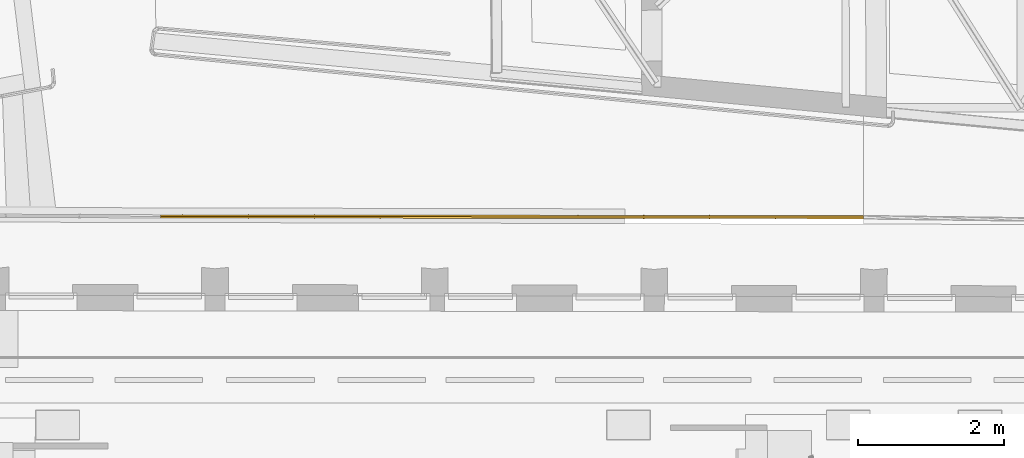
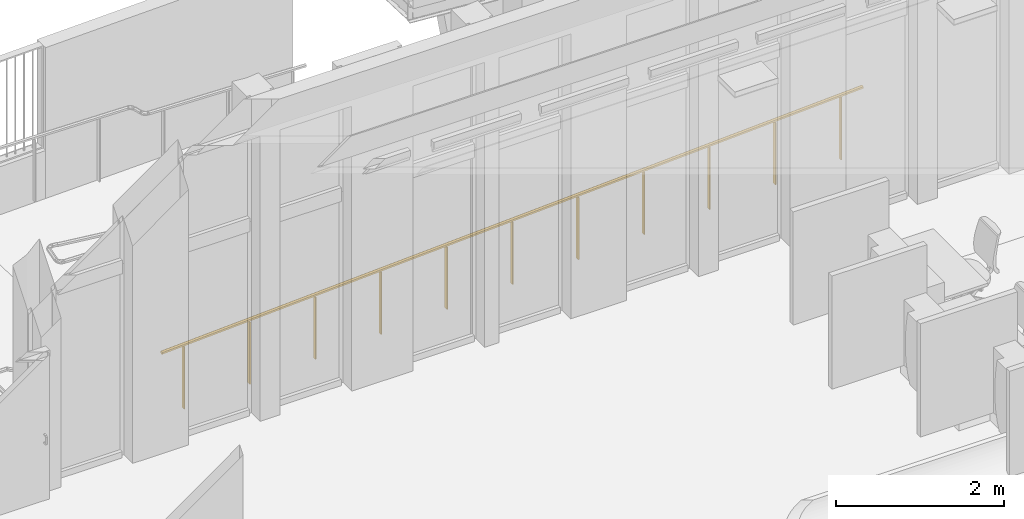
# One storey, part 63 of 128: 1 railing.
"""IFC2X3 building model written with IfcOpenShell, lengths in metres."""

from ifc_helpers import new_model, entity, si_unit, converted_unit, derived_unit, direction, frame, origin, place, context, subcontext, project, spatial, faceted_brep, material, material_list, type_object, element, save


model = new_model("IFC2X3")

# Units and contexts
model_context = context("Model", 3, precision=1e-05, world=origin(), true_north=direction((6.123031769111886e-17, 1.0)))
body_context = subcontext(model_context, "Body", "Model", "MODEL_VIEW")
ifc_project = project(units=[si_unit("LENGTHUNIT", "METRE"), si_unit("AREAUNIT", "SQUARE_METRE"), converted_unit("PLANEANGLEUNIT", "DEGREE", entity("IfcPlaneAngleMeasure", 0.017453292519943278), si_unit("PLANEANGLEUNIT", "RADIAN"), dimensions=[0, 0, 0, 0, 0, 0, 0]), derived_unit("THERMALTRANSMITTANCEUNIT", [(si_unit("MASSUNIT", "GRAM", prefix="KILO"), 1), (si_unit("THERMODYNAMICTEMPERATUREUNIT", "KELVIN"), -1), (si_unit("TIMEUNIT", "SECOND"), -3)])], contexts=[model_context])

# Site, building, storey
site_placement = place(None, origin())
site = spatial("IfcSite", under=ifc_project, at=site_placement, Name="Default", CompositionType="ELEMENT")
building_placement = place(site_placement, origin())
building = spatial("IfcBuilding", under=site, at=building_placement, CompositionType="ELEMENT")
storey_placement = place(building_placement, origin())
storey = spatial("IfcBuildingStorey", under=building, at=storey_placement, Name="00_RDC CAF", CompositionType="ELEMENT", Elevation=2.4982504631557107e-13)

# Railing
ifc_material_1 = material(Name="STR - Acier")
ifc_material_2 = material(Name="ARC - Metal")
ifc_material_list = material_list([ifc_material_1, ifc_material_2])
railing_type = type_object("IfcRailingType", Name="Garde-corps:GC_1_lisse_D50_950mm", PredefinedType="NOTDEFINED")
railing_placement = place(storey_placement, frame((12.004996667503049, 145.20203908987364, -0.48433162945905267)))
element("IfcRailing", 1, at=railing_placement, inside=storey, type_object=railing_type, material=ifc_material_list, Name="Garde-corps:GC_1_lisse_D50_950mm", ObjectType="Garde-corps:GC_1_lisse_D50_950mm", PredefinedType="NOTDEFINED", context=body_context, shape_type="Brep", body=[
    faceted_brep([(9.30844314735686, 0.051958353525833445, 1.3685955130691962), (9.293443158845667, 0.051976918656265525, 1.3685955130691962), (9.293381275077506, 0.001976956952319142, 1.3685955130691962), (9.308381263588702, 0.0019583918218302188, 1.3685955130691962), (9.30844314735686, 0.051958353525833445, 0.4686632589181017), (9.308381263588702, 0.0019583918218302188, 0.4686632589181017), (9.293381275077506, 0.001976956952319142, 0.4686632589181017), (9.293443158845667, 0.051976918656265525, 0.4686632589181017)], [[[0, 1, 2, 3]], [[4, 5, 6, 7]], [[1, 0, 4, 7]], [[2, 1, 7, 6]], [[3, 2, 6, 5]], [[0, 3, 5, 4]]]),
    faceted_brep([(8.40844383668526, 0.05307226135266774, 1.321729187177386), (8.393443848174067, 0.05309082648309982, 1.321729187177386), (8.393381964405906, 0.003090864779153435, 1.321729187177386), (8.408381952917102, 0.0030722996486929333, 1.321729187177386), (8.40844383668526, 0.05307226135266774, 0.4217969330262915), (8.408381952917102, 0.0030722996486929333, 0.4217969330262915), (8.393381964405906, 0.003090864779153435, 0.4217969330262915), (8.393443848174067, 0.05309082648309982, 0.4217969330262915)], [[[0, 1, 2, 3]], [[4, 5, 6, 7]], [[1, 0, 4, 7]], [[2, 1, 7, 6]], [[3, 2, 6, 5]], [[0, 3, 5, 4]]]),
    faceted_brep([(7.50844452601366, 0.05418616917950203, 1.2748628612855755), (7.493444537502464, 0.05420473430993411, 1.2748628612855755), (7.49338265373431, 0.004204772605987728, 1.2748628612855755), (7.508382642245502, 0.004186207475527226, 1.2748628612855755), (7.50844452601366, 0.05418616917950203, 0.37493060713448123), (7.508382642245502, 0.004186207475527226, 0.37493060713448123), (7.49338265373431, 0.004204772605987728, 0.37493060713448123), (7.493444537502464, 0.05420473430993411, 0.37493060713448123)], [[[0, 1, 2, 3]], [[4, 5, 6, 7]], [[1, 0, 4, 7]], [[2, 1, 7, 6]], [[3, 2, 6, 5]], [[0, 3, 5, 4]]]),
    faceted_brep([(6.608445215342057, 0.05530007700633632, 1.2279965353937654), (6.593445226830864, 0.055318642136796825, 1.2279965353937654), (6.5933833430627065, 0.0053186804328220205, 1.2279965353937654), (6.608383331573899, 0.005300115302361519, 1.2279965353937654), (6.608445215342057, 0.05530007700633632, 0.32806428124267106), (6.608383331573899, 0.005300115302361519, 0.32806428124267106), (6.5933833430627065, 0.0053186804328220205, 0.32806428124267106), (6.593445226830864, 0.055318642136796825, 0.32806428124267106)], [[[0, 1, 2, 3]], [[4, 5, 6, 7]], [[1, 0, 4, 7]], [[2, 1, 7, 6]], [[3, 2, 6, 5]], [[0, 3, 5, 4]]]),
    faceted_brep([(5.708445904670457, 0.056413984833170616, 1.1811302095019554), (5.6934459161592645, 0.056432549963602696, 1.1811302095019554), (5.693384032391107, 0.006432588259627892, 1.1811302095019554), (5.708384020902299, 0.00641402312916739, 1.1811302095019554), (5.708445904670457, 0.056413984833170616, 0.28119795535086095), (5.708384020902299, 0.00641402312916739, 0.28119795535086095), (5.693384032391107, 0.006432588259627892, 0.28119795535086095), (5.6934459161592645, 0.056432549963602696, 0.28119795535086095)], [[[0, 1, 2, 3]], [[4, 5, 6, 7]], [[1, 0, 4, 7]], [[2, 1, 7, 6]], [[3, 2, 6, 5]], [[0, 3, 5, 4]]]),
    faceted_brep([(4.808446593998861, 0.05752789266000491, 1.1342638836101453), (4.793446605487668, 0.05754645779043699, 1.1342638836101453), (4.7933847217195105, 0.007546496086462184, 1.1342638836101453), (4.808384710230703, 0.007527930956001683, 1.1342638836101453), (4.808446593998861, 0.05752789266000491, 0.23433162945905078), (4.808384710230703, 0.007527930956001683, 0.23433162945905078), (4.7933847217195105, 0.007546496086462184, 0.23433162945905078), (4.793446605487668, 0.05754645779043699, 0.23433162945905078)], [[[0, 1, 2, 3]], [[4, 5, 6, 7]], [[1, 0, 4, 7]], [[2, 1, 7, 6]], [[3, 2, 6, 5]], [[0, 3, 5, 4]]]),
    faceted_brep([(3.9084472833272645, 0.0586418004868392, 1.087397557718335), (3.8934472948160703, 0.05866036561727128, 1.087397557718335), (3.8933854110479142, 0.008660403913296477, 1.087397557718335), (3.908385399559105, 0.008641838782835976, 1.087397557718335), (3.9084472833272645, 0.0586418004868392, 0.18746530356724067), (3.908385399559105, 0.008641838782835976, 0.18746530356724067), (3.8933854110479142, 0.008660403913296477, 0.18746530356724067), (3.8934472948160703, 0.05866036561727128, 0.18746530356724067)], [[[0, 1, 2, 3]], [[4, 5, 6, 7]], [[1, 0, 4, 7]], [[2, 1, 7, 6]], [[3, 2, 6, 5]], [[0, 3, 5, 4]]]),
    faceted_brep([(3.008447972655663, 0.059755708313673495, 1.0405312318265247), (2.993447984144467, 0.059774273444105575, 1.0405312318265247), (2.993386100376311, 0.00977431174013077, 1.0405312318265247), (3.0083860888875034, 0.009755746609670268, 1.0405312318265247), (3.008447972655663, 0.059755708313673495, 0.1405989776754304), (3.0083860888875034, 0.009755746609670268, 0.1405989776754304), (2.993386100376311, 0.00977431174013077, 0.1405989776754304), (2.993447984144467, 0.059774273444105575, 0.1405989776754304)], [[[0, 1, 2, 3]], [[4, 5, 6, 7]], [[1, 0, 4, 7]], [[2, 1, 7, 6]], [[3, 2, 6, 5]], [[0, 3, 5, 4]]]),
    faceted_brep([(2.108448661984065, 0.06086961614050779, 0.9936649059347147), (2.093448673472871, 0.06088818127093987, 0.9936649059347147), (2.0933867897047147, 0.010888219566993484, 0.9936649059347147), (2.108386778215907, 0.010869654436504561, 0.9936649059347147), (2.108448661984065, 0.06086961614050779, 0.09373265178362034), (2.108386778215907, 0.010869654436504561, 0.09373265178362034), (2.0933867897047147, 0.010888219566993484, 0.09373265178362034), (2.093448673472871, 0.06088818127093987, 0.09373265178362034)], [[[0, 1, 2, 3]], [[4, 5, 6, 7]], [[1, 0, 4, 7]], [[2, 1, 7, 6]], [[3, 2, 6, 5]], [[0, 3, 5, 4]]]),
    faceted_brep([(1.2084493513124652, 0.06198352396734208, 0.9467985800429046), (1.193449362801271, 0.06200208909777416, 0.9467985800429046), (1.193387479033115, 0.012002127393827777, 0.9467985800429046), (1.2083874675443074, 0.011983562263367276, 0.9467985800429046), (1.2084493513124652, 0.06198352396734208, 0.04686632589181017), (1.2083874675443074, 0.011983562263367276, 0.04686632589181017), (1.193387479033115, 0.012002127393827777, 0.04686632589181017), (1.193449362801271, 0.06200208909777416, 0.04686632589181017)], [[[0, 1, 2, 3]], [[4, 5, 6, 7]], [[1, 0, 4, 7]], [[2, 1, 7, 6]], [[3, 2, 6, 5]], [[0, 3, 5, 4]]]),
    faceted_brep([(0.30845004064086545, 0.06309743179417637, 0.8999322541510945), (0.29345005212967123, 0.06311599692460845, 0.8999322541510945), (0.29338816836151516, 0.01311603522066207, 0.8999322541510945), (0.3083881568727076, 0.013097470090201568, 0.8999322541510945), (0.30845004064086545, 0.06309743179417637, 0.0), (0.3083881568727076, 0.013097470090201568, 0.0), (0.29338816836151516, 0.01311603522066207, 0.0), (0.29345005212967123, 0.06311599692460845, 0.0)], [[[0, 1, 2, 3]], [[4, 5, 6, 7]], [[1, 0, 4, 7]], [[2, 1, 7, 6]], [[3, 2, 6, 5]], [[0, 3, 5, 4]]]),
    faceted_brep([(5.773834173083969e-05, 0.060129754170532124, 0.8967808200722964), (5.103922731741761e-05, 0.054717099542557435, 0.893651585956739), (4.434011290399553e-05, 0.049304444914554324, 0.8905223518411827), (3.666017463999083e-05, 0.043099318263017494, 0.886934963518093), (3.094188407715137e-05, 0.038479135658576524, 0.8842638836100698), (2.5223593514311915e-05, 0.033858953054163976, 0.8869349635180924), (1.9505302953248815e-05, 0.029238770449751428, 0.889606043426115), (1.1825364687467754e-05, 0.023033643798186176, 0.8931934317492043), (4.14542642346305e-06, 0.016828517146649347, 0.8967808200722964), (4.14542642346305e-06, 0.016828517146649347, 0.903039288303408), (4.14542642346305e-06, 0.016828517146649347, 0.9092977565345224), (4.14542642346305e-06, 0.016828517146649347, 0.9155562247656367), (4.14542642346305e-06, 0.016828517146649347, 0.9218146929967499), (1.0844540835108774e-05, 0.022241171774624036, 0.9249439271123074), (1.754365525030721e-05, 0.027653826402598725, 0.9280731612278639), (2.4242769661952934e-05, 0.033066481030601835, 0.9312023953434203), (3.094188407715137e-05, 0.038479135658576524, 0.9343316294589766), (3.764099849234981e-05, 0.043891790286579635, 0.9312023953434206), (4.434011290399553e-05, 0.049304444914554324, 0.9280731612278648), (5.103922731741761e-05, 0.054717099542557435, 0.9249439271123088), (5.773834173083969e-05, 0.060129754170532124, 0.9218146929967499), (5.773834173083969e-05, 0.060129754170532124, 0.9155562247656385), (5.773834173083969e-05, 0.060129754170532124, 0.9092977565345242), (5.773834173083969e-05, 0.060129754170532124, 0.9030392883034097), (9.601827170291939, 0.04824587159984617, 1.4218146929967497), (9.601819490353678, 0.04204074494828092, 1.4254020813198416), (9.60181181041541, 0.03583561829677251, 1.4289894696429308), (9.601806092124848, 0.031215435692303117, 1.4316605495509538), (9.601800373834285, 0.02659525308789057, 1.4343316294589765), (9.601794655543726, 0.02197507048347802, 1.4316605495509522), (9.601786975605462, 0.01576994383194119, 1.4280731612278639), (9.60178027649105, 0.01035728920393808, 1.4249439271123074), (9.601773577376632, 0.004944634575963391, 1.4218146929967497), (9.601773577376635, 0.004944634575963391, 1.4155562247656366), (9.601773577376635, 0.004944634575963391, 1.4092977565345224), (9.601773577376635, 0.004944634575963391, 1.403039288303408), (9.601773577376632, 0.004944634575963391, 1.3967808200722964), (9.60178027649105, 0.01035728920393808, 1.3936515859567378), (9.601786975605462, 0.01576994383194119, 1.3905223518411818), (9.60179367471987, 0.02118259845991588, 1.3873931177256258), (9.601800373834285, 0.02659525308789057, 1.3842638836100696), (9.6018070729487, 0.03200790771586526, 1.3873931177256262), (9.601813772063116, 0.03742056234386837, 1.3905223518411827), (9.601820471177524, 0.04283321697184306, 1.3936515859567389), (9.601827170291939, 0.04824587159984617, 1.3967808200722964), (9.601827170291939, 0.04824587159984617, 1.4030392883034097), (9.601827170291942, 0.04824587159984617, 1.409297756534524), (9.601827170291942, 0.04824587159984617, 1.4155562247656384)], [[[0, 1, 2, 3, 4, 5, 6, 7, 8, 9, 10, 11, 12, 13, 14, 15, 16, 17, 18, 19, 20, 21, 22, 23]], [[24, 25, 26, 27, 28, 29, 30, 31, 32, 33, 34, 35, 36, 37, 38, 39, 40, 41, 42, 43, 44, 45, 46, 47]], [[6, 5, 4, 40, 39, 38, 37, 36, 8, 7]], [[10, 9, 8, 36, 35, 34, 33, 32, 12, 11]], [[29, 28, 16, 15, 14, 13, 12, 32, 31, 30]], [[18, 17, 16, 28, 27, 26, 25, 24, 20, 19]], [[2, 1, 0, 44, 43, 42, 41, 40, 4, 3]], [[23, 22, 21, 20, 24, 47, 46, 45, 44, 0]]]),
])

save(model, "model.ifc")
